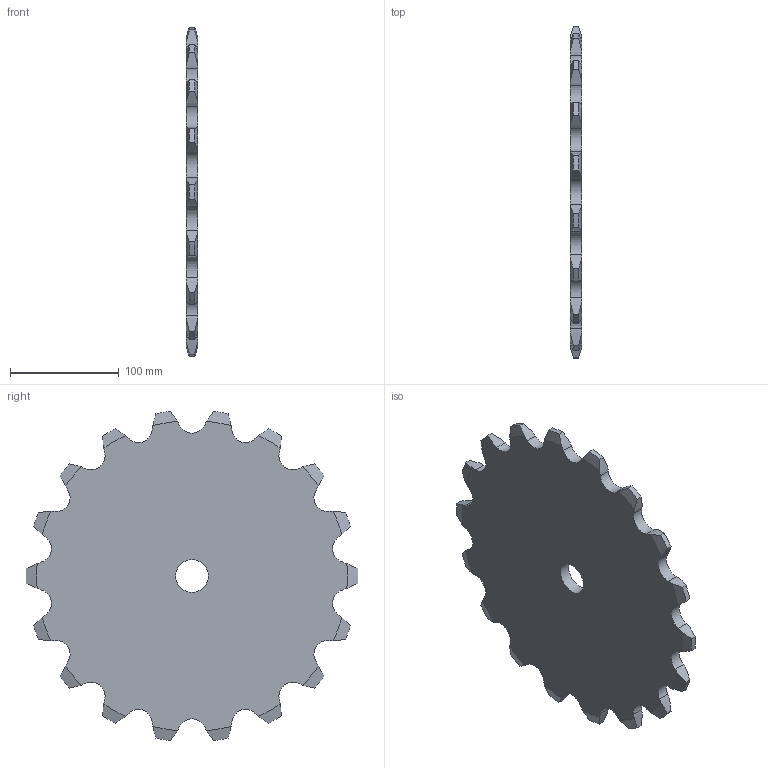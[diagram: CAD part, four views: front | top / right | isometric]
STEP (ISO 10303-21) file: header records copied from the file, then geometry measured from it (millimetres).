
FILE_DESCRIPTION(/* description */ (''),/* implementation_level */ '2;1');
FILE_NAME(/* name */ 'C:\Users\stagistaCAD\Desktop\Nuova cartella\24502518.stp',/* time_stamp */ '2018-06-25T14:43:47+02:00',/* author */ ('stagistacad'),/* organization */ (''),/* preprocessor_version */ 'ST-DEVELOPER v15.6',/* originating_system */ 'Autodesk Inventor 2015',/* authorisation */ '');
FILE_SCHEMA (('AUTOMOTIVE_DESIGN { 1 0 10303 214 3 1 1 }'));
Length unit declared in the file: millimetre
Products named in the file (1): 24502518
Bounding box: 10.5 x 305.37 x 302.82 mm (x, y, z)
Volume: 650616.2 mm3; surface area: 137997.5 mm2
Topology: 1 solids, 1 shells, 111 faces, 327 edges, 218 vertices
Faces by surface type: cylinder 73, cone 36, plane 2
Full cylindrical faces by diameter (mm): 30 x1
Entity records: 3898 total; most frequent: CARTESIAN_POINT 872, DIRECTION 660, ORIENTED_EDGE 652, EDGE_CURVE 326, AXIS2_PLACEMENT_3D 294, VERTEX_POINT 218, CIRCLE 182, EDGE_LOOP 114
